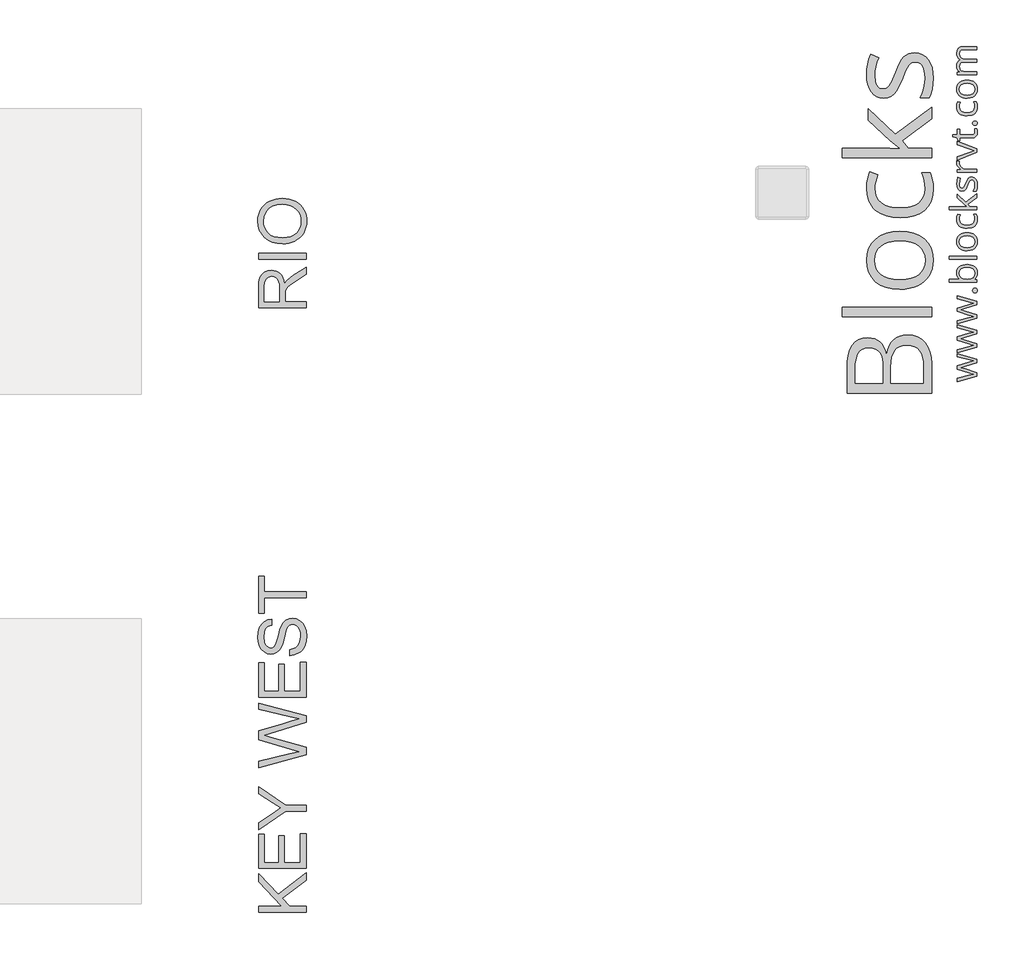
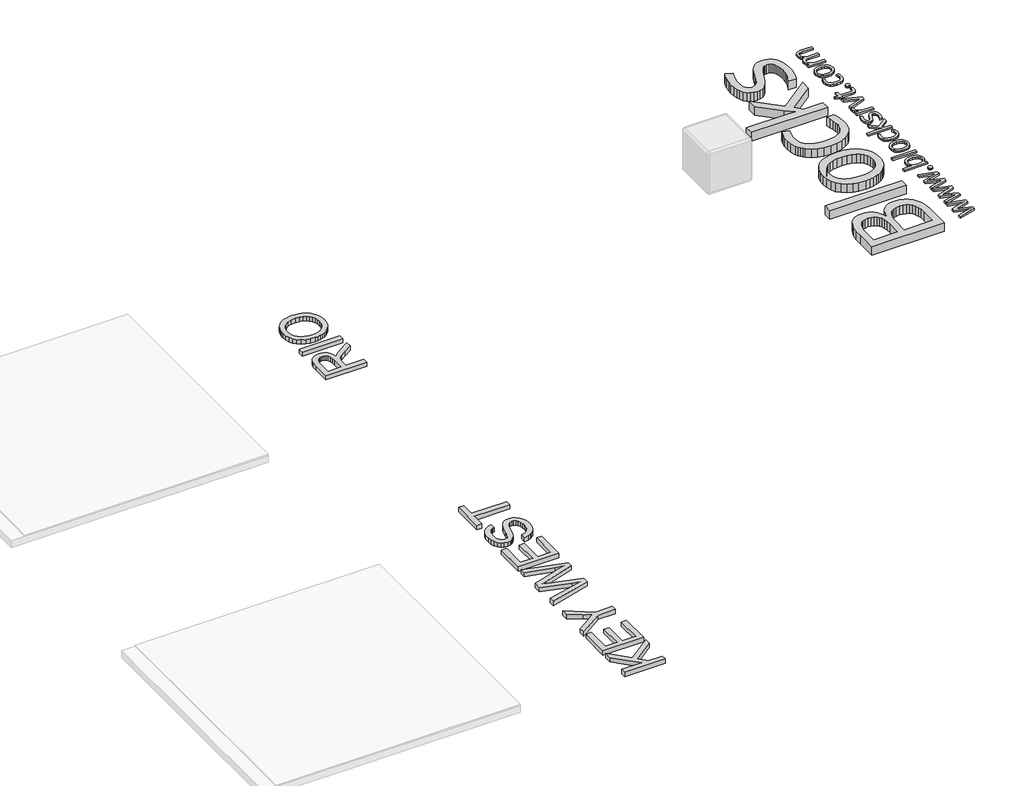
# One storey, part 7 of 7: 4 proxies.
"""IFC4 building model written with IfcOpenShell, lengths in millimetres."""

from ifc_helpers import new_model, si_unit, origin, origin_with_axes, place, context, project, spatial, polyline, outline, extrude, element, save

model = new_model("IFC4")

# Units and contexts
model_context = context("Model", 3, world=origin())
ifc_project = project(units=[si_unit("LENGTHUNIT", "METRE", prefix="MILLI")], contexts=[model_context])

# Site, building, storey
site = spatial("IfcSite", under=ifc_project)
building = spatial("IfcBuilding", under=site)
storey = spatial("IfcBuildingStorey", under=building, Name="PORTOBELLO - SHOWROOM", Elevation=0.0)

# Proxies
placement = place(None, origin())
element("IfcBuildingElementProxy", 1, Name="25mm OpenSans", ObjectType="25mm OpenSans", at=placement, inside=storey, context=model_context, shape_type="SweptSolid", body=[
    extrude(outline(polyline([(55902.2982135, 15034.7318133), (55792.4865702, 15000.2517069), (55746.7629508, 14988.0337561), (55792.861354, 14974.6164973), (55902.2982135, 14939.0869963), (55902.2982135, 14906.1809817), (55715.2061577, 14854.8356058), (55715.2061577, 14884.6683936), (55822.5442282, 14912.4023922), (55872.2405555, 14923.3460782), (55847.0550865, 14930.7667967), (55822.5442282, 14938.1125585), (55715.2061577, 14972.592665), (55715.2061577, 15003.4748473), (55822.619185, 15037.1304294), (55871.9407285, 15050.1729045), (55852.97667, 15055.2699637), (55715.2061577, 15091.0243349), (55715.2061577, 15120.5572957), (55902.2982135, 15068.537309), (55902.2982135, 15034.7318133)])), origin_with_axes(), (0.0, 0.0, 1.0), 20.0),
    extrude(outline(polyline([(55902.2982135, 15308.1740487), (55792.4865702, 15273.6939423), (55746.7629508, 15261.4759915), (55792.861354, 15248.0587327), (55902.2982135, 15212.5292317), (55902.2982135, 15179.6232171), (55715.2061577, 15128.2778412), (55715.2061577, 15158.110629), (55822.5442282, 15185.8446276), (55872.2405555, 15196.7883136), (55847.0550865, 15204.2090322), (55822.5442282, 15211.554794), (55715.2061577, 15246.0349004), (55715.2061577, 15276.9170827), (55822.619185, 15310.5726648), (55871.9407285, 15323.6151399), (55852.97667, 15328.7121991), (55715.2061577, 15364.4665703), (55715.2061577, 15393.9995311), (55902.2982135, 15341.9795444), (55902.2982135, 15308.1740487)])), origin_with_axes(), (0.0, 0.0, 1.0), 20.0),
    extrude(outline(polyline([(55902.2982135, 15581.6162842), (55792.4865702, 15547.1361777), (55746.7629508, 15534.918227), (55792.861354, 15521.5009682), (55902.2982135, 15485.9714672), (55902.2982135, 15453.0654525), (55715.2061577, 15401.7200767), (55715.2061577, 15431.5528644), (55822.5442282, 15459.2868631), (55872.2405555, 15470.230549), (55847.0550865, 15477.6512676), (55822.5442282, 15484.9970294), (55715.2061577, 15519.4771358), (55715.2061577, 15550.3593181), (55822.619185, 15584.0149003), (55871.9407285, 15597.0573753), (55852.97667, 15602.1544345), (55715.2061577, 15637.9088058), (55715.2061577, 15667.4417665), (55902.2982135, 15615.4217798), (55902.2982135, 15581.6162842)])), origin_with_axes(), (0.0, 0.0, 1.0), 20.0),
    extrude(outline(polyline([(55883.1842415, 15696.5999435), (55872.7746224, 15697.9023171), (55865.2320991, 15701.8094378), (55860.6503676, 15708.152653), (55859.1231237, 15716.7633101), (55860.6503676, 15725.6269461), (55865.2320991, 15732.279358), (55872.7746224, 15736.4394578), (55883.1842415, 15737.8261577), (55893.3877295, 15736.411349), (55900.9115136, 15732.1669228), (55905.5494627, 15725.4864022), (55907.0954457, 15716.7633101), (55901.5111676, 15702.3341351), (55894.137297, 15698.0334914), (55883.1842415, 15696.5999435)])), origin_with_axes(), (0.0, 0.0, 1.0), 20.0),
    extrude(outline(polyline([(55710.4089255, 15884.9662641), (55712.0087837, 15902.5506499), (55716.8083583, 15918.050301), (55724.8076493, 15931.4652174), (55736.0066567, 15942.7953991), (55750.1289775, 15951.7972367), (55766.8982086, 15958.2271207), (55808.3774019, 15963.3710279), (55849.997139, 15958.1802727), (55866.8858325, 15951.6918288), (55881.1604092, 15942.6080072), (55892.5069877, 15931.2239504), (55900.6116866, 15917.8348003), (55905.474506, 15902.4405572), (55907.0954457, 15885.0412208), (55905.38081, 15867.3982751), (55900.2369028, 15851.3481603), (55891.5325499, 15837.3406171), (55879.1365768, 15825.8253859), (55879.1365768, 15823.7265968), (55902.2982135, 15817.7300565), (55902.2982135, 15797.4167764), (55638.4504425, 15797.4167764), (55638.4504425, 15825.7504291), (55701.0393314, 15825.7504291), (55738.817535, 15824.4012076), (55726.3887683, 15836.9564637), (55717.5110779, 15850.5611144), (55712.1844636, 15866.5643812), (55710.4089255, 15884.9662641)]), holes=[polyline([(55734.3950865, 15880.9935562), (55738.6301431, 15855.7237608), (55751.3353127, 15838.680469), (55774.0659481, 15828.9829391), (55808.3774019, 15825.7504291), (55842.8293995, 15829.076635), (55865.8317531, 15839.0552528), (55878.7899018, 15856.3608932), (55883.1092847, 15881.668167), (55878.2652046, 15904.7454773), (55863.7329641, 15921.0579407), (55840.1309564, 15930.7554707), (55808.0775749, 15933.9879806), (55775.6306703, 15930.7554707), (55752.6470559, 15921.0579407), (55738.9580789, 15904.5768246), (55734.3950865, 15880.9935562)])]), origin_with_axes(), (0.0, 0.0, 1.0), 20.0),
    extrude(outline(polyline([(55902.2982135, 16040.6514403), (55902.2982135, 16012.3177877), (55638.4504425, 16012.3177877), (55638.4504425, 16040.6514403), (55902.2982135, 16040.6514403)])), origin_with_axes(), (0.0, 0.0, 1.0), 20.0),
    extrude(outline(polyline([(55808.6022721, 16265.5966565), (55830.5294648, 16264.1560814), (55849.9128127, 16259.8343561), (55866.7523158, 16252.6314806), (55881.047974, 16242.5474549), (55892.4437429, 16229.928954), (55900.5835778, 16215.1226528), (55905.4674788, 16198.1285515), (55907.0954457, 16178.9466499), (55904.1065452, 16155.2509463), (55895.1398436, 16134.3848601), (55880.5888639, 16117.1541765), (55860.8471291, 16104.3646805), (55836.6173586, 16096.4380039), (55808.6022721, 16093.7957783), (55786.684449, 16095.2246414), (55767.3292099, 16099.5112307), (55750.5365548, 16106.6555463), (55736.3064837, 16116.657588), (55724.976302, 16129.1987898), (55716.8833151, 16143.9605853), (55712.0275229, 16160.9429747), (55710.4089255, 16180.1459579), (55712.0650013, 16198.7422599), (55717.0332286, 16215.3287839), (55725.3136074, 16229.90553), (55736.9061378, 16242.4724981), (55751.3236007, 16252.5893174), (55768.0787775, 16259.8156169), (55787.1716679, 16264.1513966), (55808.6022721, 16265.5966565)]), holes=[polyline([(55808.3774019, 16123.2537823), (55840.533849, 16126.8329673), (55863.9953127, 16137.5705221), (55878.3307917, 16155.2415767), (55883.1092847, 16179.6212606), (55878.3495309, 16204.0196838), (55864.0702694, 16221.7469559), (55840.6275449, 16232.5407284), (55808.3774019, 16236.1386525), (55776.4551946, 16232.5407284), (55753.2467099, 16221.7469559), (55739.1079924, 16203.9259878), (55734.3950865, 16179.2464769), (55739.0424052, 16154.9136409), (55752.9843613, 16137.3831303), (55776.1272588, 16126.7861193), (55808.3774019, 16123.2537823)])]), origin_with_axes(), (0.0, 0.0, 1.0), 20.0),
    extrude(outline(polyline([(55907.0954457, 16390.9993045), (55905.5096419, 16371.6557774), (55900.7522305, 16354.62654), (55892.8232115, 16339.9115924), (55881.7225848, 16327.5109346), (55867.7220688, 16317.6728607), (55851.0933816, 16310.6456651), (55809.9514937, 16305.0239086), (55787.5042885, 16306.4504293), (55767.7602113, 16310.7299915), (55750.7192619, 16317.862595), (55736.3814405, 16327.84824), (55725.0184652, 16340.4714257), (55716.9020543, 16355.5166515), (55712.0322077, 16372.9839173), (55710.4089255, 16392.8732233), (55713.1823254, 16420.1200031), (55719.7035629, 16441.4451993), (55743.1650266, 16432.6752592), (55736.9061378, 16411.949717), (55734.3950865, 16392.1236558), (55739.0845684, 16366.9053931), (55753.153014, 16348.8923484), (55776.6004233, 16338.0845216), (55809.4267964, 16334.4819126), (55840.8898935, 16337.9955104), (55864.0702694, 16348.5363038), (55878.3495309, 16365.9731185), (55883.1092847, 16390.1747802), (55880.5794943, 16414.142202), (55872.9901231, 16438.6717995), (55897.6508948, 16438.6717995), (55904.734308, 16417.2716464), (55907.0954457, 16390.9993045)])), origin_with_axes(), (0.0, 0.0, 1.0), 20.0),
    extrude(outline(polyline([(55808.4523586, 16510.2554987), (55780.5684465, 16533.1173084), (55715.2061577, 16593.0827109), (55715.2061577, 16626.4384661), (55794.9601431, 16551.1818859), (55902.2982135, 16631.6854388), (55902.2982135, 16597.5801161), (55815.9480339, 16531.9929571), (55833.9376547, 16511.0050662), (55902.2982135, 16511.0050662), (55902.2982135, 16482.9712406), (55638.4504425, 16482.9712406), (55638.4504425, 16511.0050662), (55779.4440952, 16511.0050662), (55808.4523586, 16510.2554987)])), origin_with_axes(), (0.0, 0.0, 1.0), 20.0),
    extrude(outline(polyline([(55851.8523187, 16791.942977), (55875.3418912, 16787.0426792), (55892.7412275, 16772.341786), (55903.5068912, 16748.795996), (55907.0954457, 16717.3610076), (55904.134654, 16684.06147), (55895.2522787, 16658.9696969), (55868.7175881, 16658.9696969), (55879.249012, 16688.1278739), (55883.1092847, 16718.1105751), (55881.3290619, 16737.9272667), (55875.9883932, 16752.5532032), (55866.9935828, 16761.5761224), (55854.2509348, 16764.5837621), (55843.9631204, 16762.1945156), (55835.2868762, 16755.0267761), (55816.6976015, 16717.8107481), (55799.4575482, 16680.4073283), (55782.7796707, 16663.8793643), (55760.4050799, 16658.4449996), (55739.6795376, 16663.1297967), (55723.8261843, 16677.1841879), (55713.7632402, 16699.4088652), (55710.4089255, 16728.6045206), (55713.5196308, 16758.6434394), (55722.8517465, 16788.0452258), (55746.0133833, 16777.8511074), (55737.2996607, 16750.7917195), (55734.3950865, 16726.4307747), (55735.9972871, 16708.6098067), (55740.8038889, 16695.7734627), (55748.4401081, 16688.0154388), (55758.531161, 16685.4294308), (55771.5361577, 16689.2897036), (55781.7302761, 16701.770003), (55795.7846673, 16734.8259311), (55808.1150532, 16762.9066047), (55820.5203959, 16780.1372884), (55834.5747871, 16788.9915548), (55851.8523187, 16791.942977)])), origin_with_axes(), (0.0, 0.0, 1.0), 20.0),
    extrude(outline(polyline([(55710.4089255, 16924.3915598), (55712.2828444, 16947.0284992), (55736.9436161, 16943.0557913), (55734.3950865, 16922.3677274), (55739.0892532, 16901.0331616), (55753.1717532, 16883.0529104), (55774.2627096, 16870.8255901), (55799.9822455, 16866.7498166), (55902.2982135, 16866.7498166), (55902.2982135, 16838.4161639), (55715.2061577, 16838.4161639), (55715.2061577, 16861.8026709), (55748.7867831, 16865.0258113), (55732.4649501, 16878.0120688), (55720.3781737, 16891.7853721), (55712.9012376, 16907.3576376), (55710.4089255, 16924.3915598)])), origin_with_axes(), (0.0, 0.0, 1.0), 20.0),
    extrude(outline(polyline([(55902.2982135, 17024.0090847), (55715.2061577, 16952.0506017), (55715.2061577, 16982.8578272), (55826.1421524, 17023.7092577), (55876.663004, 17039.8999163), (55839.1846274, 17053.3171751), (55715.2061577, 17098.7409675), (55715.2061577, 17129.5481931), (55902.2982135, 17057.5897101), (55902.2982135, 17024.0090847)])), origin_with_axes(), (0.0, 0.0, 1.0), 20.0),
    extrude(outline(polyline([(55883.1092847, 17220.9204751), (55881.9849334, 17235.6119988), (55879.6612741, 17246.8555117), (55901.848473, 17246.8555117), (55905.5963107, 17233.1384259), (55907.0954457, 17216.8728105), (55903.535, 17192.8679103), (55892.8536626, 17175.721553), (55875.0514338, 17165.4337386), (55850.1283134, 17162.0044672), (55739.1923187, 17162.0044672), (55739.1923187, 17134.8701225), (55725.1754059, 17134.8701225), (55713.0324119, 17161.8545537), (55672.0310679, 17173.9225909), (55672.0310679, 17190.4130766), (55715.2061577, 17190.4130766), (55715.2061577, 17245.5062902), (55739.1923187, 17245.5062902), (55739.1923187, 17190.4130766), (55848.404308, 17190.4130766), (55863.2363756, 17192.4462785), (55874.1519527, 17198.5458843), (55880.8699517, 17208.2059359), (55883.1092847, 17220.9204751)])), origin_with_axes(), (0.0, 0.0, 1.0), 20.0),
    extrude(outline(polyline([(55883.1842415, 17279.6865696), (55872.7746224, 17280.9889432), (55865.2320991, 17284.8960639), (55860.6503676, 17291.2392792), (55859.1231237, 17299.8499362), (55860.6503676, 17308.7135722), (55865.2320991, 17315.3659841), (55872.7746224, 17319.5260839), (55883.1842415, 17320.9127838), (55893.3877295, 17319.4979751), (55900.9115136, 17315.253549), (55905.5494627, 17308.5730283), (55907.0954457, 17299.8499362), (55901.5111676, 17285.4207612), (55894.137297, 17281.1201175), (55883.1842415, 17279.6865696)])), origin_with_axes(), (0.0, 0.0, 1.0), 20.0),
    extrude(outline(polyline([(55907.0954457, 17455.984853), (55905.5096419, 17436.6413259), (55900.7522305, 17419.6120885), (55892.8232115, 17404.8971409), (55881.7225848, 17392.4964831), (55867.7220688, 17382.6584092), (55851.0933816, 17375.6312136), (55809.9514937, 17370.0094571), (55787.5042885, 17371.4359778), (55767.7602113, 17375.71554), (55750.7192619, 17382.8481435), (55736.3814405, 17392.8337885), (55725.0184652, 17405.4569742), (55716.9020543, 17420.5022), (55712.0322077, 17437.9694658), (55710.4089255, 17457.8587718), (55713.1823254, 17485.1055516), (55719.7035629, 17506.4307478), (55743.1650266, 17497.6608077), (55736.9061378, 17476.9352655), (55734.3950865, 17457.1092043), (55739.0845684, 17431.8909416), (55753.153014, 17413.8778969), (55776.6004233, 17403.0700701), (55809.4267964, 17399.4674611), (55840.8898935, 17402.9810589), (55864.0702694, 17413.5218523), (55878.3495309, 17430.958667), (55883.1092847, 17455.1603287), (55880.5794943, 17479.1277505), (55872.9901231, 17503.657348), (55897.6508948, 17503.657348), (55904.734308, 17482.2571949), (55907.0954457, 17455.984853)])), origin_with_axes(), (0.0, 0.0, 1.0), 20.0),
    extrude(outline(polyline([(55808.6022721, 17709.5635488), (55830.5294648, 17708.1229737), (55849.9128127, 17703.8012484), (55866.7523158, 17696.5983729), (55881.047974, 17686.5143472), (55892.4437429, 17673.8958463), (55900.5835778, 17659.0895452), (55905.4674788, 17642.0954438), (55907.0954457, 17622.9135422), (55904.1065452, 17599.2178386), (55895.1398436, 17578.3517525), (55880.5888639, 17561.1210688), (55860.8471291, 17548.3315728), (55836.6173586, 17540.4048962), (55808.6022721, 17537.7626706), (55786.684449, 17539.1915337), (55767.3292099, 17543.4781231), (55750.5365548, 17550.6224386), (55736.3064837, 17560.6244803), (55724.976302, 17573.1656821), (55716.8833151, 17587.9274777), (55712.0275229, 17604.909867), (55710.4089255, 17624.1128502), (55712.0650013, 17642.7091522), (55717.0332286, 17659.2956762), (55725.3136074, 17673.8724223), (55736.9061378, 17686.4393905), (55751.3236007, 17696.5562097), (55768.0787775, 17703.7825092), (55787.1716679, 17708.1182889), (55808.6022721, 17709.5635488)]), holes=[polyline([(55808.3774019, 17567.2206746), (55840.533849, 17570.7998596), (55863.9953127, 17581.5374145), (55878.3307917, 17599.208469), (55883.1092847, 17623.588153), (55878.3495309, 17647.9865761), (55864.0702694, 17665.7138482), (55840.6275449, 17676.5076207), (55808.3774019, 17680.1055448), (55776.4551946, 17676.5076207), (55753.2467099, 17665.7138482), (55739.1079924, 17647.8928802), (55734.3950865, 17623.2133692), (55739.0424052, 17598.8805332), (55752.9843613, 17581.3500226), (55776.1272588, 17570.7530116), (55808.3774019, 17567.2206746)])]), origin_with_axes(), (0.0, 0.0, 1.0), 20.0),
    extrude(outline(polyline([(55902.2982135, 17998.5967889), (55779.5190519, 17998.5967889), (55759.7773171, 17996.1981728), (55745.6760779, 17989.0023245), (55737.2153344, 17976.7468953), (55734.3950865, 17959.1695367), (55738.2272505, 17936.101596), (55749.7237425, 17919.9671548), (55769.1843896, 17910.4663864), (55796.9090186, 17907.2994636), (55902.2982135, 17907.2994636), (55902.2982135, 17878.8908541), (55779.5190519, 17878.8908541), (55759.7773171, 17876.492238), (55745.6760779, 17869.2963897), (55737.2153344, 17857.0034822), (55734.3950865, 17839.3136885), (55738.424012, 17816.1333126), (55750.5107884, 17800.1113066), (55771.761028, 17790.7791908), (55803.2803427, 17787.6684856), (55902.2982135, 17787.6684856), (55902.2982135, 17759.3348329), (55715.2061577, 17759.3348329), (55715.2061577, 17782.4215129), (55739.1923187, 17786.9938748), (55727.1149119, 17798.0781047), (55718.017036, 17811.0924709), (55712.3109531, 17826.6178884), (55710.4089255, 17843.8860504), (55712.3765403, 17863.9838299), (55718.2793846, 17880.2775541), (55728.1174585, 17892.7672231), (55741.8907618, 17901.4528368), (55728.867026, 17913.0805032), (55718.8790386, 17927.1255248), (55712.5264538, 17944.1688165), (55710.4089255, 17963.4420717), (55714.5128078, 17991.297875), (55726.8244545, 18011.152045), (55748.1683899, 18023.04206), (55779.3691384, 18027.0053983), (55902.2982135, 18027.0053983), (55902.2982135, 17998.5967889)])), origin_with_axes(), (0.0, 0.0, 1.0), 20.0),
])
element("IfcBuildingElementProxy", 2, Name="450mm Arial", ObjectType="450mm Arial", at=placement, inside=storey, context=model_context, shape_type="SweptSolid", body=[
    extrude(outline(polyline([(49549.5356427, 9829.9111169), (49099.8794999, 9829.9111169), (49099.8794999, 9886.1181347), (49319.9870601, 9886.1181347), (49099.8794999, 10116.6547314), (49099.8794999, 10195.2567329), (49284.7478946, 10001.715771), (49549.5356427, 10202.2826101), (49549.5356427, 10133.5607485), (49322.7315434, 9961.8658736), (49394.9663437, 9886.1181347), (49549.5356427, 9886.1181347), (49549.5356427, 9829.9111169)])), origin_with_axes(), (0.0, 0.0, 1.0), 50.0),
    extrude(outline(polyline([(49549.5356427, 10244.4378735), (49099.8794999, 10244.4378735), (49099.8794999, 10567.6282262), (49156.0865178, 10567.6282262), (49156.0865178, 10300.6448914), (49289.5781852, 10300.6448914), (49289.5781852, 10553.5764717), (49345.785203, 10553.5764717), (49345.785203, 10300.6448914), (49493.3286249, 10300.6448914), (49493.3286249, 10574.6541034), (49549.5356427, 10574.6541034), (49549.5356427, 10244.4378735)])), origin_with_axes(), (0.0, 0.0, 1.0), 50.0),
    extrude(outline(polyline([(49549.5356427, 10785.4304204), (49359.0685022, 10785.4304204), (49099.8794999, 10609.7834896), (49099.8794999, 10676.0902059), (49238.3112373, 10769.8417553), (49308.8993476, 10817.8153232), (49233.261388, 10865.8986705), (49099.8794999, 10950.9776526), (49099.8794999, 11017.284369), (49359.0685022, 10841.6374382), (49549.5356427, 10841.6374382), (49549.5356427, 10785.4304204)])), origin_with_axes(), (0.0, 0.0, 1.0), 50.0),
    extrude(outline(polyline([(49549.5356427, 11322.5806906), (49099.8794999, 11199.957177), (49099.8794999, 11257.9206642), (49395.405461, 11329.0576711), (49486.6320857, 11351.0135375), (49405.9442768, 11374.5063145), (49099.8794999, 11463.6471319), (49099.8794999, 11547.1892033), (49321.7435294, 11611.959009), (49404.0780282, 11639.7057351), (49486.6320857, 11660.1521357), (49398.0401649, 11681.449326), (49099.8794999, 11753.245009), (49099.8794999, 11811.2084962), (49549.5356427, 11688.4752033), (49549.5356427, 11628.4259088), (49202.6329544, 11520.622605), (49154.2202691, 11505.5828366), (49212.5130943, 11488.6768195), (49549.5356427, 11390.4243176), (49549.5356427, 11322.5806906)])), origin_with_axes(), (0.0, 0.0, 1.0), 50.0),
    extrude(outline(polyline([(49549.5356427, 11867.415514), (49099.8794999, 11867.415514), (49099.8794999, 12190.6058667), (49156.0865178, 12190.6058667), (49156.0865178, 11923.6225319), (49289.5781852, 11923.6225319), (49289.5781852, 12176.5541122), (49345.785203, 12176.5541122), (49345.785203, 11923.6225319), (49493.3286249, 11923.6225319), (49493.3286249, 12197.6317439), (49549.5356427, 12197.6317439), (49549.5356427, 11867.415514)])), origin_with_axes(), (0.0, 0.0, 1.0), 50.0),
    extrude(outline(polyline([(49394.9663437, 12260.864639), (49394.9663437, 12317.0716568), (49426.1573963, 12323.5211926), (49451.2282512, 12335.1852466), (49471.1257551, 12353.3811708), (49486.7967547, 12379.4263173), (49496.9650653, 12411.2623235), (49500.3545021, 12446.8308269), (49497.7884102, 12478.1453813), (49490.0901346, 12505.5627694), (49477.9046288, 12527.7793617), (49461.8768464, 12543.4915285), (49443.4750859, 12552.8364942), (49424.1676459, 12555.9514827), (49405.3542129, 12553.6186719), (49389.0931494, 12546.6202395), (49375.2197864, 12532.403816), (49363.5694548, 12508.4170321), (49342.1075954, 12426.5765402), (49327.9048944, 12372.8532798), (49314.3883142, 12338.4786265), (49295.4788243, 12310.4986193), (49272.5623888, 12290.6697275), (49246.1330146, 12278.854727), (49216.6847089, 12274.9163934), (49183.7646318, 12279.7878513), (49153.0675862, 12294.4022248), (49127.0498845, 12318.3752864), (49108.1678395, 12351.3228083), (49096.6821769, 12390.8708126), (49092.8536227, 12434.6453211), (49096.8605683, 12482.0699924), (49108.8814051, 12523.5665798), (49128.6691297, 12557.6530623), (49155.9767385, 12582.847419), (49189.1026518, 12598.7928669), (49226.3452901, 12605.1326233), (49226.3452901, 12548.9256055), (49208.4100918, 12545.1656634), (49192.8077043, 12538.6063483), (49179.5381275, 12529.2476603), (49168.6013616, 12517.0895993), (49160.0522961, 12501.9057454), (49153.9458208, 12483.4696789), (49149.0606406, 12436.8409078), (49153.8909311, 12389.1143433), (49159.9287944, 12370.8703906), (49168.3818029, 12356.3726576), (49189.7064381, 12337.4357229), (49201.8713603, 12332.7014892), (49215.0380189, 12331.1234113), (49236.6371025, 12335.5969191), (49254.0096817, 12349.0174424), (49269.5434571, 12380.7436692), (49285.4065706, 12440.7929637), (49300.4737839, 12502.7633965), (49313.6198588, 12540.2530383), (49334.0113697, 12572.2948807), (49359.1782815, 12594.6486971), (49388.8461459, 12607.7810497), (49422.7405146, 12612.1585006), (49457.3896162, 12607.1223737), (49489.9803553, 12592.0139932), (49518.0289745, 12567.4508677), (49539.0517166, 12534.050506), (49552.1840691, 12493.884993), (49556.56152, 12449.0264136), (49551.8410087, 12393.9583563), (49537.6794749, 12348.6332147), (49527.0446022, 12329.4938743), (49514.0220289, 12312.529537), (49498.6117552, 12297.7402026), (49480.8137811, 12285.1258713), (49440.3600973, 12267.5337334), (49394.9663437, 12260.864639)])), origin_with_axes(), (0.0, 0.0, 1.0), 50.0),
    extrude(outline(polyline([(49549.5356427, 12808.883063), (49156.0865178, 12808.883063), (49156.0865178, 12661.3396412), (49099.8794999, 12661.3396412), (49099.8794999, 13012.6335028), (49156.0865178, 13012.6335028), (49156.0865178, 12865.0900809), (49549.5356427, 12865.0900809), (49549.5356427, 12808.883063)])), origin_with_axes(), (0.0, 0.0, 1.0), 50.0),
])
element("IfcBuildingElementProxy", 3, Name="450mm Arial", ObjectType="450mm Arial", at=placement, inside=storey, context=model_context, shape_type="SweptSolid", body=[
    extrude(outline(polyline([(49549.5356427, 15555.8031901), (49099.8794999, 15555.8031901), (49099.8794999, 15749.5637106), (49102.912154, 15801.6402811), (49112.0101161, 15839.527873), (49128.8063538, 15867.2197094), (49154.9338348, 15888.7090136), (49187.3324601, 15902.5000421), (49222.9421308, 15907.0970517), (49246.0369577, 15905.1930664), (49267.2380912, 15899.4811105), (49286.5455311, 15889.9611841), (49303.9592776, 15876.6332871), (49318.9235728, 15859.3258893), (49330.8826588, 15837.8674606), (49339.8365355, 15812.2580008), (49345.785203, 15782.4975101), (49369.8268767, 15814.4432957), (49427.6805845, 15860.0017183), (49549.5356427, 15934.9810019), (49549.5356427, 15869.6622995), (49456.3329901, 15811.1499157), (49394.6370057, 15768.884873), (49376.6469177, 15753.1727061), (49365.4905931, 15739.1895638), (49354.7871082, 15712.4582965), (49352.8110803, 15679.853835), (49352.8110803, 15612.0102079), (49549.5356427, 15612.0102079), (49549.5356427, 15555.8031901)]), holes=[polyline([(49296.6040624, 15612.0102079), (49296.6040624, 15737.8173221), (49294.614312, 15773.9484447), (49288.6450609, 15801.9833415), (49278.2983588, 15823.088418), (49263.1762559, 15838.4300797), (49244.8842747, 15847.7750453), (49225.0279381, 15850.8900338), (49210.6537069, 15849.4045822), (49197.61055, 15844.9482275), (49175.5174595, 15827.1228085), (49167.0164225, 15813.513602), (49160.9442532, 15796.4532077), (49156.0865178, 15751.9788559), (49156.0865178, 15612.0102079), (49296.6040624, 15612.0102079)])]), origin_with_axes(), (0.0, 0.0, 1.0), 50.0),
    extrude(outline(polyline([(49549.5356427, 16012.4852101), (49099.8794999, 16012.4852101), (49099.8794999, 16068.692228), (49549.5356427, 16068.692228), (49549.5356427, 16012.4852101)])), origin_with_axes(), (0.0, 0.0, 1.0), 50.0),
    extrude(outline(polyline([(49330.6356553, 16160.028632), (49277.8935476, 16163.7748517), (49231.2030255, 16175.0135108), (49190.5640892, 16193.7446093), (49155.9767385, 16219.9681471), (49128.3603753, 16252.1129077), (49108.6344016, 16288.6076743), (49096.7988174, 16329.4524469), (49092.8536227, 16374.6472255), (49094.7061489, 16404.8982927), (49100.2637276, 16433.6261715), (49109.5263587, 16460.8308622), (49122.4940423, 16486.5123646), (49138.7756894, 16509.9502519), (49157.9802113, 16530.4240973), (49180.1076078, 16547.9339007), (49205.1578791, 16562.4796622), (49232.5615448, 16573.9104351), (49261.7491246, 16582.0752729), (49292.7206186, 16586.9741756), (49325.4760267, 16588.6071431), (49358.6636909, 16586.8884105), (49390.0537186, 16581.7322125), (49419.6461097, 16573.1385492), (49447.4408642, 16561.1074205), (49472.7038329, 16545.9235667), (49494.7008665, 16527.8717278), (49513.431965, 16506.9519039), (49528.8971284, 16483.164095), (49541.0002997, 16457.4448559), (49549.6454221, 16430.7307417), (49554.8324955, 16403.0217522), (49556.56152, 16374.3178876), (49554.6506735, 16343.5385074), (49548.918134, 16314.4332621), (49539.3639015, 16287.0021516), (49525.9879761, 16261.2451759), (49509.3083789, 16237.8347334), (49489.8431311, 16217.4432225), (49467.5922328, 16200.0706432), (49442.555684, 16185.7169956), (49415.7386516, 16174.4783365), (49388.1463027, 16166.4507229), (49359.7786372, 16161.6341547), (49330.6356553, 16160.028632)]), holes=[polyline([(49331.1845519, 16216.2356498), (49368.4477738, 16219.0453146), (49401.5256587, 16227.4743089), (49430.4182066, 16241.5226328), (49455.1254175, 16261.1902862), (49474.913142, 16285.0981663), (49489.047231, 16311.8671702), (49497.5276843, 16341.497298), (49500.3545021, 16373.9885496), (49497.5002395, 16407.035559), (49488.9374516, 16437.0156084), (49474.6661385, 16463.9286977), (49454.6863001, 16487.7748269), (49429.4576374, 16507.2983949), (49399.4398514, 16521.2438007), (49364.6329421, 16529.6110441), (49325.0369093, 16532.4001253), (49275.2794272, 16527.6247243), (49232.273374, 16513.2985215), (49197.1028206, 16489.7920221), (49170.8518379, 16457.4757313), (49154.5084399, 16418.4903462), (49149.0606406, 16374.9765635), (49151.6850527, 16343.6139807), (49159.5582892, 16314.5155966), (49172.6803499, 16287.6814112), (49191.0512349, 16263.1114245), (49215.5560402, 16242.6032731), (49247.0798614, 16227.9545935), (49285.6226986, 16219.1653858), (49331.1845519, 16216.2356498)])]), origin_with_axes(), (0.0, 0.0, 1.0), 50.0),
])
element("IfcBuildingElementProxy", 4, Name="80mm OpenSans", ObjectType="80mm OpenSans", at=placement, inside=storey, context=model_context, shape_type="SweptSolid", body=[
    extrude(outline(polyline([(54672.9148065, 14743.8776592), (54672.9148065, 14968.8607798), (54675.8517857, 15042.6908777), (54684.6627232, 15105.5392274), (54699.3476191, 15157.4058289), (54719.9064733, 15198.2906822), (54746.8049961, 15229.260414), (54780.5088977, 15251.3816509), (54821.0181782, 15264.6543931), (54868.3328376, 15269.0786405), (54901.9916705, 15266.6073716), (54932.5407607, 15259.1935649), (54959.9801084, 15246.8372203), (54984.3097133, 15229.5383378), (55005.0939112, 15207.5072383), (55021.8970375, 15180.9542425), (55034.7190924, 15149.8793503), (55043.5600757, 15114.2825618), (55048.8481405, 15114.2825618), (55058.763262, 15156.8161796), (55072.7646154, 15193.6786484), (55090.8522007, 15224.8699681), (55113.0260179, 15250.3901388), (55139.2860669, 15270.2391604), (55169.6323479, 15284.417033), (55204.0648607, 15292.9237566), (55242.5836055, 15295.7593311), (55293.8192447, 15291.2449462), (55339.1208339, 15277.7017917), (55378.4883731, 15255.1298673), (55411.9218624, 15223.5291733), (55438.5800186, 15183.83113), (55457.6215588, 15136.967158), (55469.0464828, 15082.9372573), (55472.8547909, 15021.7414278), (55472.8547909, 14743.8776592), (54672.9148065, 14743.8776592)]), holes=[polyline([(55011.3509538, 14836.8995264), (55011.3509538, 14988.8112061), (55009.4205097, 15034.2930703), (55003.6291773, 15072.9094639), (54993.9769568, 15104.6603871), (54980.463848, 15129.5458398), (54962.3837742, 15148.3169675), (54939.0306585, 15161.7249159), (54910.4045008, 15169.769685), (54876.5053014, 15172.4512746), (54845.3027145, 15169.4617153), (54818.7572301, 15160.4930372), (54796.8688482, 15145.5452404), (54779.6375689, 15124.6183248), (54766.5976818, 15097.1864887), (54757.2834768, 15062.72393), (54751.6949537, 15021.2306488), (54749.8321127, 14972.7066451), (54749.8321127, 14836.8995264), (55011.3509538, 14836.8995264)]), polyline([(55088.2682599, 14836.8995264), (55395.9374847, 14836.8995264), (55395.9374847, 15002.5121013), (55393.5263074, 15047.6183927), (55386.2927756, 15086.790634), (55374.2368892, 15120.0288254), (55357.3586483, 15147.3329668), (55335.3575946, 15168.6279437), (55307.9332699, 15183.8386414), (55275.0856742, 15192.9650601), (55236.8148075, 15196.0071997), (55201.1203701, 15192.897457), (55170.4736309, 15183.568229), (55144.87459, 15168.0195158), (55124.3232472, 15146.2513172), (55108.5491903, 15118.1434501), (55097.2820068, 15083.575731), (55090.5216967, 15042.5481601), (55088.2682599, 14995.0607372), (55088.2682599, 14836.8995264)])]), origin_with_axes(), (0.0, 0.0, 1.0), 100.0),
    extrude(outline(polyline([(55472.8547909, 15557.5185387), (55472.8547909, 15466.6599708), (54626.7644228, 15466.6599708), (54626.7644228, 15557.5185387), (55472.8547909, 15557.5185387)])), origin_with_axes(), (0.0, 0.0, 1.0), 100.0),
    extrude(outline(polyline([(55172.3965636, 16278.8586508), (55242.7113002, 16274.2391056), (55304.868596, 16260.3804698), (55358.8684509, 16237.2827436), (55404.7108649, 16204.9459269), (55441.2540968, 16164.4817151), (55467.3564053, 16117.0018038), (55483.0177904, 16062.5061928), (55488.2382521, 16000.9948822), (55485.8420977, 15961.8677096), (55478.6536347, 15925.0089965), (55466.6728628, 15890.4187431), (55449.8997823, 15858.0969493), (55428.6498742, 15828.6896003), (55403.2386196, 15802.8426813), (55373.6660186, 15780.5561923), (55339.9320711, 15761.8301333), (55302.6001364, 15747.0025198), (55262.2335735, 15736.4113673), (55218.8323826, 15730.0566757), (55172.3965636, 15727.9384452), (55102.1118728, 15732.5204332), (55040.0447145, 15746.2663971), (54986.1950887, 15769.1763369), (54940.5629954, 15801.2502527), (54904.2300843, 15841.4665864), (54878.2780049, 15888.8037801), (54862.7067573, 15943.2618338), (54857.5163414, 16004.8407475), (54862.8269406, 16064.4741942), (54878.7587381, 16117.6628119), (54905.3117339, 16164.4066006), (54942.4859281, 16204.7055603), (54988.7189378, 16237.1475374), (55042.4483803, 16260.3203782), (55103.6742556, 16274.2240826), (55172.3965636, 16278.8586508)]), holes=[polyline([(55171.6754638, 15822.4025119), (55226.7194111, 15825.271888), (55274.7927274, 15833.8800162), (55315.8954129, 15848.2268965), (55350.0274676, 15868.312529), (55376.8433643, 15893.9566387), (55395.9975763, 15924.9789507), (55407.4901035, 15961.3794649), (55411.3209459, 16003.1581814), (55407.5051264, 16044.9519209), (55396.057668, 16081.3975038), (55376.9785705, 16112.4949303), (55350.2678341, 16138.2442004), (55316.2108941, 16158.4349933), (55275.0931857, 16172.8569882), (55226.9147089, 16181.5101852), (55171.6754638, 16184.3945841), (55116.9995779, 16181.5101852), (55069.3093458, 16172.8569882), (55028.6047675, 16158.4349933), (54994.8858429, 16138.2442004), (54968.4380074, 16112.4198158), (54949.5466964, 16081.0970456), (54938.2119098, 16044.2758898), (54934.4336476, 16001.9563485), (54938.1593296, 15960.2151893), (54949.3363756, 15923.9273469), (54967.9647857, 15893.0928213), (54994.0445599, 15867.7116126), (55027.5005835, 15847.888881), (55068.257742, 15833.7297871), (55116.3160355, 15825.2343307), (55171.6754638, 15822.4025119)])]), origin_with_axes(), (0.0, 0.0, 1.0), 100.0),
    extrude(outline(polyline([(55488.2382521, 16680.9919422), (55483.1529966, 16618.9623412), (55467.8972301, 16564.3540584), (55442.4709526, 16517.1670938), (55406.8741642, 16477.4014474), (55361.9781936, 16445.8533335), (55308.6543697, 16423.3189665), (55246.9026925, 16409.7983463), (55176.7231621, 16405.2914728), (55104.7408823, 16409.8659494), (55041.4268223, 16423.5893789), (54986.7809822, 16446.4617614), (54940.803362, 16478.483097), (54921.2829665, 16497.7518587), (54904.3652905, 16518.9623317), (54890.0503338, 16542.114516), (54878.3380965, 16567.2084115), (54862.7217802, 16623.2213365), (54857.5163414, 16687.0011067), (54859.7397323, 16730.7177788), (54866.4099049, 16774.3743592), (54876.0846598, 16813.2836997), (54887.3217975, 16842.7586518), (54962.5565376, 16814.6357617), (54942.4859281, 16748.1744018), (54936.4467177, 16714.3127596), (54934.4336476, 16684.5974409), (54938.1931311, 16641.2751203), (54949.4715819, 16603.7291091), (54968.2689997, 16571.9594072), (54994.5853847, 16545.9660149), (55028.4207368, 16525.7489319), (55069.7750561, 16511.3081583), (55118.6483425, 16502.6436942), (55175.040596, 16499.7555395), (55228.8075958, 16502.5723354), (55275.9344687, 16511.022723), (55316.4212148, 16525.1067024), (55350.2678341, 16544.8242736), (55376.9785705, 16570.0702761), (55396.057668, 16600.7395497), (55407.5051264, 16636.8320942), (55411.3209459, 16678.3479098), (55409.2928529, 16716.5511734), (55403.2085738, 16755.2051243), (55393.0681086, 16794.3097626), (55378.8714574, 16833.8650882), (55457.9520628, 16833.8650882), (55471.2022706, 16801.5057372), (55480.6667048, 16765.2404291), (55486.3453653, 16725.0691641), (55488.2382521, 16680.9919422)])), origin_with_axes(), (0.0, 0.0, 1.0), 100.0),
    extrude(outline(polyline([(55171.9158304, 17065.5784731), (55082.499462, 17136.7269814), (54872.8998026, 17329.0202468), (54872.8998026, 17435.9833757), (55128.6498457, 17194.6553276), (55472.8547909, 17452.8090365), (55472.8547909, 17343.4422417), (55195.9524886, 17133.1214826), (55253.6404682, 17065.8188397), (55472.8547909, 17065.8188397), (55472.8547909, 16975.9217381), (54626.7644228, 16975.9217381), (54626.7644228, 17065.8188397), (55078.8939633, 17065.8188397), (55171.9158304, 17061.2518747), (55171.9158304, 17065.5784731)])), origin_with_axes(), (0.0, 0.0, 1.0), 100.0),
    extrude(outline(polyline([(55311.0880813, 17966.7127884), (55351.1917432, 17962.7842971), (55386.4129589, 17950.9988231), (55416.7517284, 17931.3563665), (55442.2080517, 17903.8569273), (55462.3462644, 17869.2666738), (55476.730702, 17828.3517747), (55485.3613646, 17781.11223), (55488.2382521, 17727.5480395), (55485.8646321, 17670.8665949), (55478.7437721, 17620.7651855), (55466.8756722, 17577.2438113), (55450.2603322, 17540.3024722), (55365.1705622, 17540.3024722), (55384.3097513, 17585.431298), (55398.942067, 17633.8050726), (55408.2262262, 17682.8398553), (55411.3209459, 17729.9517053), (55409.8937693, 17763.8058361), (55405.6122396, 17793.4986204), (55398.4763567, 17819.0300582), (55388.4861207, 17840.4001497), (55375.5664169, 17857.2783906), (55359.6421308, 17869.3342769), (55340.7132625, 17876.5678088), (55318.7798119, 17878.978986), (55301.6386701, 17877.0635648), (55285.7894986, 17871.3173012), (55271.2322975, 17861.7401953), (55257.9670667, 17848.3322469), (55230.4450931, 17803.1733753), (55198.3561544, 17728.990239), (55168.6708816, 17656.8201728), (55143.0718406, 17609.0473146), (55117.923487, 17578.0099798), (55089.5902761, 17556.0464834), (55056.6901003, 17542.9765505), (55017.8408515, 17538.6199062), (54982.6571931, 17542.375634), (54951.3794916, 17553.6428175), (54924.0077471, 17572.4214567), (54900.5419595, 17598.7115516), (54881.7182516, 17631.5516359), (54868.2727459, 17669.9802431), (54860.2054425, 17713.9973734), (54857.5163414, 17763.6030268), (54860.0101447, 17812.0218701), (54867.4915545, 17859.9299344), (54879.960571, 17907.3272198), (54897.417194, 17954.2137262), (54971.6904678, 17921.523871), (54955.3906089, 17877.0560534), (54943.7478526, 17834.751535), (54936.7621988, 17794.6103158), (54934.4336476, 17756.6323959), (54939.5714833, 17699.4852411), (54945.9937779, 17676.9058053), (54954.9849903, 17658.3224639), (54966.2446624, 17643.8103315), (54979.4723358, 17633.4445227), (54994.6680107, 17627.2250374), (55011.8316869, 17625.1518756), (55034.5162831, 17628.2465954), (55053.5352889, 17637.5307546), (55070.300858, 17653.725453), (55086.225144, 17677.5517905), (55105.2441498, 17717.8732846), (55131.2938781, 17783.5534531), (55151.0339836, 17832.9262513), (55170.8341808, 17873.6007838), (55190.6944696, 17905.5770506), (55210.6148501, 17928.8550518), (55231.8572468, 17945.4178116), (55255.6835842, 17957.2483543), (55282.0938624, 17964.3466799), (55311.0880813, 17966.7127884)])), origin_with_axes(), (0.0, 0.0, 1.0), 100.0),
])

save(model, "model.ifc")
